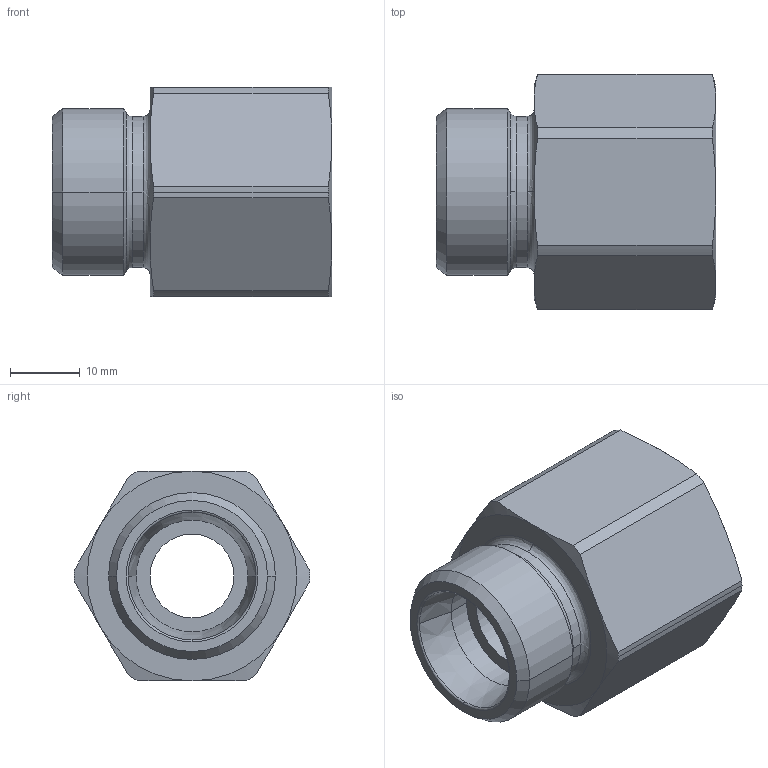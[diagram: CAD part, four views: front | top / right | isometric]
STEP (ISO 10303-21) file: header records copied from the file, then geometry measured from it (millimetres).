
FILE_DESCRIPTION((''),'2;1');
FILE_NAME('100719.stp','2007-10-30T15:09:50',(''),(''),'AutoCAD STEP 2000i','AutoCAD 2000i',', , ');
FILE_SCHEMA(('CONFIG_CONTROL_DESIGN'));
Length unit declared in the file: millimetre
Products named in the file (2): 100719.0; CHIAVE SMUSSATA#0
Assembly tree (1 placements, depth 2):
  100719.0
    CHIAVE SMUSSATA#0
Bounding box: 40 x 33.7 x 30 mm (x, y, z)
Volume: 17126.7 mm3; surface area: 6924.6 mm2
Topology: 1 solids, 1 shells, 56 faces, 134 edges, 82 vertices
Faces by surface type: cone 22, cylinder 18, plane 10, bspline 4, torus 2
Entity records: 1887 total; most frequent: CARTESIAN_POINT 498, DIRECTION 294, ORIENTED_EDGE 268, EDGE_CURVE 134, AXIS2_PLACEMENT_3D 130, VERTEX_POINT 82, CIRCLE 76, EDGE_LOOP 60
